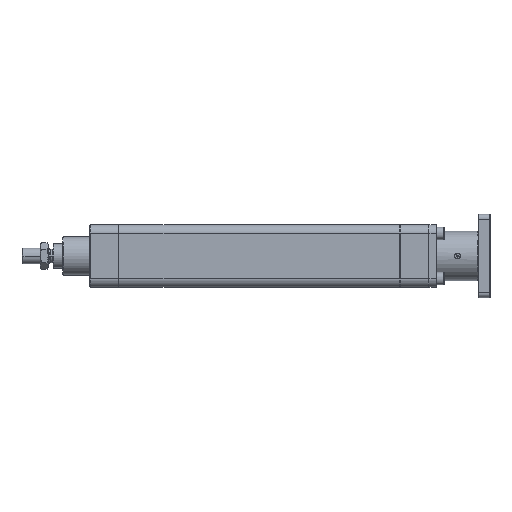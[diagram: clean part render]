
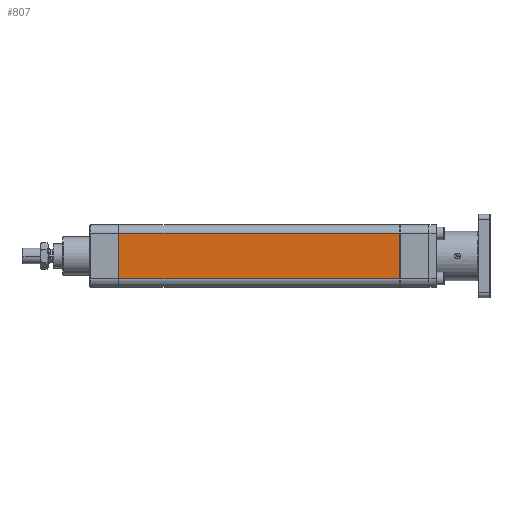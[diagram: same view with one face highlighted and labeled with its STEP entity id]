
A CAD part, left-side view. The second image highlights one B-rep face of the part: STEP entity #807.
In plain terms, the highlighted planar face has unit normal (-1, 0, 0).
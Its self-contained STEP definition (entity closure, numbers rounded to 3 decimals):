
#785 = EDGE_CURVE ( 'NONE', #786, #812, #8873, .T. ) ;
#786 = VERTEX_POINT ( 'NONE', #8864 ) ;
#787 = ORIENTED_EDGE ( 'NONE', *, *, #788, .T. ) ;
#788 = EDGE_CURVE ( 'NONE', #786, #804, #8926, .T. ) ;
#801 = VERTEX_POINT ( 'NONE', #8894 ) ;
#803 = EDGE_CURVE ( 'NONE', #804, #801, #8959, .T. ) ;
#804 = VERTEX_POINT ( 'NONE', #8955 ) ;
#807 = ADVANCED_FACE ( 'NONE', ( #8949 ), #8948, .F. ) ;
#808 = EDGE_LOOP ( 'NONE', ( #809, #810, #813, #787 ) ) ;
#809 = ORIENTED_EDGE ( 'NONE', *, *, #803, .T. ) ;
#810 = ORIENTED_EDGE ( 'NONE', *, *, #811, .T. ) ;
#811 = EDGE_CURVE ( 'NONE', #801, #812, #8943, .T. ) ;
#812 = VERTEX_POINT ( 'NONE', #8939 ) ;
#813 = ORIENTED_EDGE ( 'NONE', *, *, #785, .F. ) ;
#8864 = CARTESIAN_POINT ( 'NONE',  ( -32., 289.7, 23.25 ) ) ;
#8865 = DIRECTION ( 'NONE',  ( 0., -1., 0. ) ) ;
#8866 = VECTOR ( 'NONE', #8865, 1000. ) ;
#8867 = CARTESIAN_POINT ( 'NONE',  ( -32., 290., 23.25 ) ) ;
#8873 = LINE ( 'NONE', #8867, #8866 ) ;
#8894 = CARTESIAN_POINT ( 'NONE',  ( -32., 0.3, -23.25 ) ) ;
#8923 = DIRECTION ( 'NONE',  ( 0., 0., -1. ) ) ;
#8924 = VECTOR ( 'NONE', #8923, 1000. ) ;
#8925 = CARTESIAN_POINT ( 'NONE',  ( -32., 289.7, -23.25 ) ) ;
#8926 = LINE ( 'NONE', #8925, #8924 ) ;
#8939 = CARTESIAN_POINT ( 'NONE',  ( -32., 0.3, 23.25 ) ) ;
#8940 = DIRECTION ( 'NONE',  ( 0., 0., 1. ) ) ;
#8941 = VECTOR ( 'NONE', #8940, 1000. ) ;
#8942 = CARTESIAN_POINT ( 'NONE',  ( -32., 0.3, 23.25 ) ) ;
#8943 = LINE ( 'NONE', #8942, #8941 ) ;
#8944 = DIRECTION ( 'NONE',  ( 0., 0., -1. ) ) ;
#8945 = DIRECTION ( 'NONE',  ( 1., 0., 0. ) ) ;
#8946 = CARTESIAN_POINT ( 'NONE',  ( -32., 290., -23.25 ) ) ;
#8947 = AXIS2_PLACEMENT_3D ( 'NONE', #8946, #8945, #8944 ) ;
#8948 = PLANE ( 'NONE',  #8947 ) ;
#8949 = FACE_OUTER_BOUND ( 'NONE', #808, .T. ) ;
#8955 = CARTESIAN_POINT ( 'NONE',  ( -32., 289.7, -23.25 ) ) ;
#8956 = DIRECTION ( 'NONE',  ( 0., -1., 0. ) ) ;
#8957 = VECTOR ( 'NONE', #8956, 1000. ) ;
#8958 = CARTESIAN_POINT ( 'NONE',  ( -32., 290., -23.25 ) ) ;
#8959 = LINE ( 'NONE', #8958, #8957 ) ;
